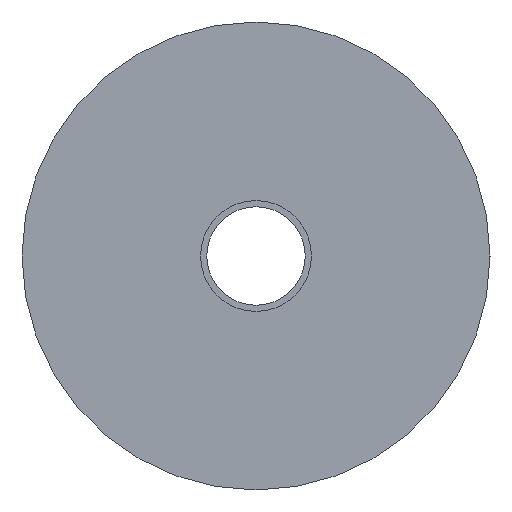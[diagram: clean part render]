
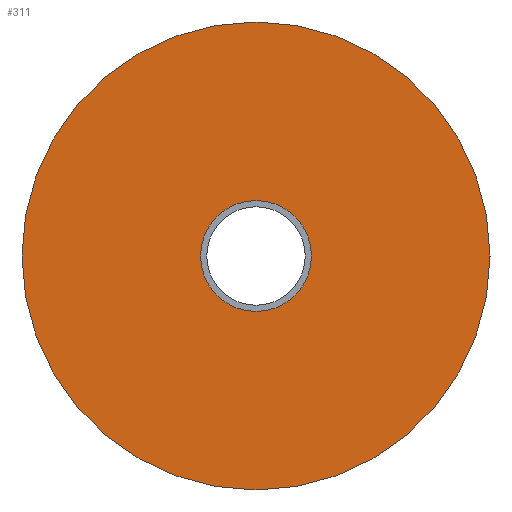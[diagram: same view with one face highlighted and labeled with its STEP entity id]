
A CAD part, left-side view. The second image highlights one B-rep face of the part: STEP entity #311.
In plain terms, the highlighted planar face has unit normal (-1, 0, 0).
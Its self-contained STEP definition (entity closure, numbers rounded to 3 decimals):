
#155 = CYLINDRICAL_SURFACE('',#156,18.);
#156 = AXIS2_PLACEMENT_3D('',#157,#158,#159);
#157 = CARTESIAN_POINT('',(558.,-550.,1185.));
#158 = DIRECTION('',(1.,0.,0.));
#159 = DIRECTION('',(-0.,0.,1.));
#207 = VERTEX_POINT('',#208);
#208 = CARTESIAN_POINT('',(560.,-550.,1203.));
#229 = EDGE_CURVE('',#207,#207,#230,.T.);
#230 = SURFACE_CURVE('',#231,(#236,#243),.PCURVE_S1.);
#231 = CIRCLE('',#232,18.);
#232 = AXIS2_PLACEMENT_3D('',#233,#234,#235);
#233 = CARTESIAN_POINT('',(560.,-550.,1185.));
#234 = DIRECTION('',(1.,0.,0.));
#235 = DIRECTION('',(-0.,0.,1.));
#236 = PCURVE('',#155,#237);
#237 = DEFINITIONAL_REPRESENTATION('',(#238),#242);
#238 = LINE('',#239,#240);
#239 = CARTESIAN_POINT('',(0.,2.));
#240 = VECTOR('',#241,1.);
#241 = DIRECTION('',(1.,0.));
#242 = ( GEOMETRIC_REPRESENTATION_CONTEXT(2) 
PARAMETRIC_REPRESENTATION_CONTEXT() REPRESENTATION_CONTEXT('2D SPACE',''
  ) );
#243 = PCURVE('',#244,#249);
#244 = PLANE('',#245);
#245 = AXIS2_PLACEMENT_3D('',#246,#247,#248);
#246 = CARTESIAN_POINT('',(560.,-550.,1185.));
#247 = DIRECTION('',(1.,0.,0.));
#248 = DIRECTION('',(-0.,0.,1.));
#249 = DEFINITIONAL_REPRESENTATION('',(#250),#254);
#250 = CIRCLE('',#251,18.);
#251 = AXIS2_PLACEMENT_2D('',#252,#253);
#252 = CARTESIAN_POINT('',(0.,0.));
#253 = DIRECTION('',(1.,0.));
#254 = ( GEOMETRIC_REPRESENTATION_CONTEXT(2) 
PARAMETRIC_REPRESENTATION_CONTEXT() REPRESENTATION_CONTEXT('2D SPACE',''
  ) );
#311 = ADVANCED_FACE('',(#312,#343),#244,.F.);
#312 = FACE_BOUND('',#313,.F.);
#313 = EDGE_LOOP('',(#314));
#314 = ORIENTED_EDGE('',*,*,#315,.T.);
#315 = EDGE_CURVE('',#316,#316,#318,.T.);
#316 = VERTEX_POINT('',#317);
#317 = CARTESIAN_POINT('',(560.,-550.,1261.));
#318 = SURFACE_CURVE('',#319,(#324,#331),.PCURVE_S1.);
#319 = CIRCLE('',#320,76.);
#320 = AXIS2_PLACEMENT_3D('',#321,#322,#323);
#321 = CARTESIAN_POINT('',(560.,-550.,1185.));
#322 = DIRECTION('',(1.,0.,0.));
#323 = DIRECTION('',(-0.,0.,1.));
#324 = PCURVE('',#244,#325);
#325 = DEFINITIONAL_REPRESENTATION('',(#326),#330);
#326 = CIRCLE('',#327,76.);
#327 = AXIS2_PLACEMENT_2D('',#328,#329);
#328 = CARTESIAN_POINT('',(0.,0.));
#329 = DIRECTION('',(1.,0.));
#330 = ( GEOMETRIC_REPRESENTATION_CONTEXT(2) 
PARAMETRIC_REPRESENTATION_CONTEXT() REPRESENTATION_CONTEXT('2D SPACE',''
  ) );
#331 = PCURVE('',#332,#337);
#332 = CYLINDRICAL_SURFACE('',#333,76.);
#333 = AXIS2_PLACEMENT_3D('',#334,#335,#336);
#334 = CARTESIAN_POINT('',(560.,-550.,1185.));
#335 = DIRECTION('',(1.,0.,0.));
#336 = DIRECTION('',(-0.,0.,1.));
#337 = DEFINITIONAL_REPRESENTATION('',(#338),#342);
#338 = LINE('',#339,#340);
#339 = CARTESIAN_POINT('',(0.,0.));
#340 = VECTOR('',#341,1.);
#341 = DIRECTION('',(1.,0.));
#342 = ( GEOMETRIC_REPRESENTATION_CONTEXT(2) 
PARAMETRIC_REPRESENTATION_CONTEXT() REPRESENTATION_CONTEXT('2D SPACE',''
  ) );
#343 = FACE_BOUND('',#344,.F.);
#344 = EDGE_LOOP('',(#345));
#345 = ORIENTED_EDGE('',*,*,#229,.F.);
